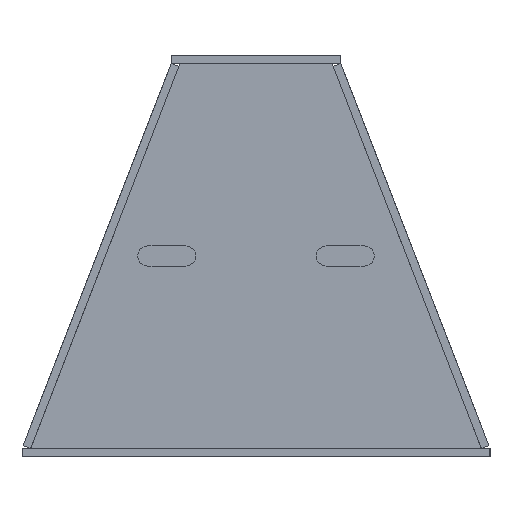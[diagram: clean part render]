
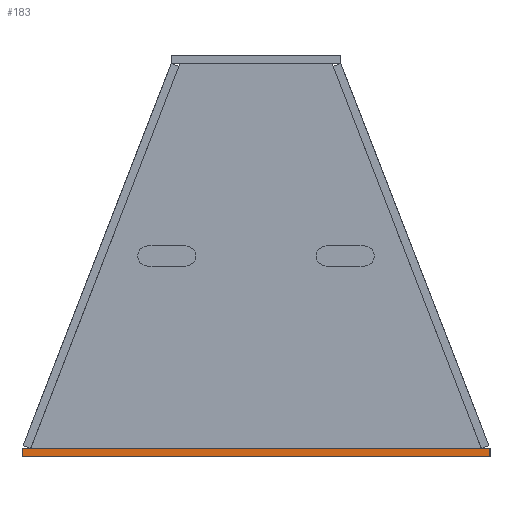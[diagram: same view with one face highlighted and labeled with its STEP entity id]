
A CAD part, left-side view. The second image highlights one B-rep face of the part: STEP entity #183.
In plain terms, the highlighted planar face has unit normal (-1, 0, 0).
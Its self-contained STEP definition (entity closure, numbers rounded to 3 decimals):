
#67 = EDGE_CURVE('',#68,#70,#72,.T.);
#68 = VERTEX_POINT('',#69);
#69 = CARTESIAN_POINT('',(-600.,-525.,0.));
#70 = VERTEX_POINT('',#71);
#71 = CARTESIAN_POINT('',(-600.,-525.,18.));
#72 = SURFACE_CURVE('',#73,(#77,#89),.PCURVE_S1.);
#73 = LINE('',#74,#75);
#74 = CARTESIAN_POINT('',(-600.,-525.,0.));
#75 = VECTOR('',#76,1.);
#76 = DIRECTION('',(0.,0.,1.));
#77 = PCURVE('',#78,#83);
#78 = PLANE('',#79);
#79 = AXIS2_PLACEMENT_3D('',#80,#81,#82);
#80 = CARTESIAN_POINT('',(-600.,-525.,0.));
#81 = DIRECTION('',(0.,1.,0.));
#82 = DIRECTION('',(1.,0.,0.));
#83 = DEFINITIONAL_REPRESENTATION('',(#84),#88);
#84 = LINE('',#85,#86);
#85 = CARTESIAN_POINT('',(0.,0.));
#86 = VECTOR('',#87,1.);
#87 = DIRECTION('',(0.,-1.));
#88 = ( GEOMETRIC_REPRESENTATION_CONTEXT(2) 
PARAMETRIC_REPRESENTATION_CONTEXT() REPRESENTATION_CONTEXT('2D SPACE',''
  ) );
#89 = PCURVE('',#90,#95);
#90 = PLANE('',#91);
#91 = AXIS2_PLACEMENT_3D('',#92,#93,#94);
#92 = CARTESIAN_POINT('',(-600.,525.,0.));
#93 = DIRECTION('',(1.,0.,-0.));
#94 = DIRECTION('',(0.,-1.,0.));
#95 = DEFINITIONAL_REPRESENTATION('',(#96),#100);
#96 = LINE('',#97,#98);
#97 = CARTESIAN_POINT('',(1050.,0.));
#98 = VECTOR('',#99,1.);
#99 = DIRECTION('',(0.,-1.));
#100 = ( GEOMETRIC_REPRESENTATION_CONTEXT(2) 
PARAMETRIC_REPRESENTATION_CONTEXT() REPRESENTATION_CONTEXT('2D SPACE',''
  ) );
#118 = PLANE('',#119);
#119 = AXIS2_PLACEMENT_3D('',#120,#121,#122);
#120 = CARTESIAN_POINT('',(0.,0.,18.));
#121 = DIRECTION('',(0.,0.,1.));
#122 = DIRECTION('',(1.,0.,-0.));
#172 = PLANE('',#173);
#173 = AXIS2_PLACEMENT_3D('',#174,#175,#176);
#174 = CARTESIAN_POINT('',(0.,0.,0.));
#175 = DIRECTION('',(0.,0.,1.));
#176 = DIRECTION('',(1.,0.,-0.));
#183 = ADVANCED_FACE('',(#184),#90,.F.);
#184 = FACE_BOUND('',#185,.F.);
#185 = EDGE_LOOP('',(#186,#216,#237,#238));
#186 = ORIENTED_EDGE('',*,*,#187,.T.);
#187 = EDGE_CURVE('',#188,#190,#192,.T.);
#188 = VERTEX_POINT('',#189);
#189 = CARTESIAN_POINT('',(-600.,525.,0.));
#190 = VERTEX_POINT('',#191);
#191 = CARTESIAN_POINT('',(-600.,525.,18.));
#192 = SURFACE_CURVE('',#193,(#197,#204),.PCURVE_S1.);
#193 = LINE('',#194,#195);
#194 = CARTESIAN_POINT('',(-600.,525.,0.));
#195 = VECTOR('',#196,1.);
#196 = DIRECTION('',(0.,0.,1.));
#197 = PCURVE('',#90,#198);
#198 = DEFINITIONAL_REPRESENTATION('',(#199),#203);
#199 = LINE('',#200,#201);
#200 = CARTESIAN_POINT('',(0.,0.));
#201 = VECTOR('',#202,1.);
#202 = DIRECTION('',(0.,-1.));
#203 = ( GEOMETRIC_REPRESENTATION_CONTEXT(2) 
PARAMETRIC_REPRESENTATION_CONTEXT() REPRESENTATION_CONTEXT('2D SPACE',''
  ) );
#204 = PCURVE('',#205,#210);
#205 = PLANE('',#206);
#206 = AXIS2_PLACEMENT_3D('',#207,#208,#209);
#207 = CARTESIAN_POINT('',(600.,525.,0.));
#208 = DIRECTION('',(0.,-1.,0.));
#209 = DIRECTION('',(-1.,0.,0.));
#210 = DEFINITIONAL_REPRESENTATION('',(#211),#215);
#211 = LINE('',#212,#213);
#212 = CARTESIAN_POINT('',(1200.,0.));
#213 = VECTOR('',#214,1.);
#214 = DIRECTION('',(0.,-1.));
#215 = ( GEOMETRIC_REPRESENTATION_CONTEXT(2) 
PARAMETRIC_REPRESENTATION_CONTEXT() REPRESENTATION_CONTEXT('2D SPACE',''
  ) );
#216 = ORIENTED_EDGE('',*,*,#217,.T.);
#217 = EDGE_CURVE('',#190,#70,#218,.T.);
#218 = SURFACE_CURVE('',#219,(#223,#230),.PCURVE_S1.);
#219 = LINE('',#220,#221);
#220 = CARTESIAN_POINT('',(-600.,525.,18.));
#221 = VECTOR('',#222,1.);
#222 = DIRECTION('',(0.,-1.,0.));
#223 = PCURVE('',#90,#224);
#224 = DEFINITIONAL_REPRESENTATION('',(#225),#229);
#225 = LINE('',#226,#227);
#226 = CARTESIAN_POINT('',(0.,-18.));
#227 = VECTOR('',#228,1.);
#228 = DIRECTION('',(1.,0.));
#229 = ( GEOMETRIC_REPRESENTATION_CONTEXT(2) 
PARAMETRIC_REPRESENTATION_CONTEXT() REPRESENTATION_CONTEXT('2D SPACE',''
  ) );
#230 = PCURVE('',#118,#231);
#231 = DEFINITIONAL_REPRESENTATION('',(#232),#236);
#232 = LINE('',#233,#234);
#233 = CARTESIAN_POINT('',(-600.,525.));
#234 = VECTOR('',#235,1.);
#235 = DIRECTION('',(0.,-1.));
#236 = ( GEOMETRIC_REPRESENTATION_CONTEXT(2) 
PARAMETRIC_REPRESENTATION_CONTEXT() REPRESENTATION_CONTEXT('2D SPACE',''
  ) );
#237 = ORIENTED_EDGE('',*,*,#67,.F.);
#238 = ORIENTED_EDGE('',*,*,#239,.F.);
#239 = EDGE_CURVE('',#188,#68,#240,.T.);
#240 = SURFACE_CURVE('',#241,(#245,#252),.PCURVE_S1.);
#241 = LINE('',#242,#243);
#242 = CARTESIAN_POINT('',(-600.,525.,0.));
#243 = VECTOR('',#244,1.);
#244 = DIRECTION('',(0.,-1.,0.));
#245 = PCURVE('',#90,#246);
#246 = DEFINITIONAL_REPRESENTATION('',(#247),#251);
#247 = LINE('',#248,#249);
#248 = CARTESIAN_POINT('',(0.,0.));
#249 = VECTOR('',#250,1.);
#250 = DIRECTION('',(1.,0.));
#251 = ( GEOMETRIC_REPRESENTATION_CONTEXT(2) 
PARAMETRIC_REPRESENTATION_CONTEXT() REPRESENTATION_CONTEXT('2D SPACE',''
  ) );
#252 = PCURVE('',#172,#253);
#253 = DEFINITIONAL_REPRESENTATION('',(#254),#258);
#254 = LINE('',#255,#256);
#255 = CARTESIAN_POINT('',(-600.,525.));
#256 = VECTOR('',#257,1.);
#257 = DIRECTION('',(0.,-1.));
#258 = ( GEOMETRIC_REPRESENTATION_CONTEXT(2) 
PARAMETRIC_REPRESENTATION_CONTEXT() REPRESENTATION_CONTEXT('2D SPACE',''
  ) );
